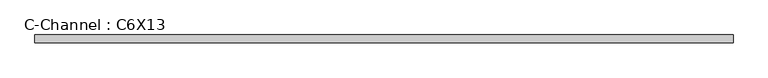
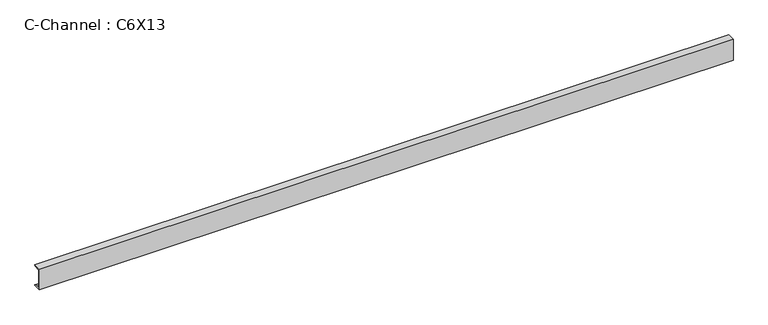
"""IFC4 building model written with IfcOpenShell, lengths in millimetres: beam geometry, C-Channel : C6X13."""

import ifcopenshell
import ifcopenshell.guid

model = None  # the IFC model being written
_history = None  # IfcOwnerHistory: only IFC2X3 demands one
_inside = {}  # id of a spatial element -> (the spatial element, [elements in it])
_under = {}  # id of a project, library or spatial element -> (it, [spatial elements below it])
_declared = {}  # id of a project -> (the project, [libraries it declares])
_typed = {}  # id of a type object -> (the type object, [elements of that type])
_made_of = {}  # id of a material, layer set ... -> (it, [elements and type objects made of it])


def new_model(schema):
    """Start an empty IFC model of exactly this schema.

    Asked for "IFC4X3", IfcOpenShell would pick the latest addendum, in which some entities
    have other attributes; the version numbers below select the first issue.
    IFC2X3 requires an IfcOwnerHistory on every rooted entity: one is made here for all.
    """
    global model, _history
    if schema == "IFC4X3":
        model = ifcopenshell.file(schema_version=(4, 3, 0, 0))
    else:
        model = ifcopenshell.file(schema=schema)
    _inside.clear()
    _under.clear()
    _declared.clear()
    _typed.clear()
    _made_of.clear()
    _history = None
    if model.schema == "IFC2X3":
        org = make("IfcOrganization", Name="unknown")
        user = make(
            "IfcPersonAndOrganization",
            ThePerson=make("IfcPerson", FamilyName="unknown"),
            TheOrganization=org,
        )
        app = make(
            "IfcApplication",
            ApplicationDeveloper=org,
            Version="unknown",
            ApplicationFullName="unknown",
            ApplicationIdentifier="unknown",
        )
        _history = make(
            "IfcOwnerHistory",
            OwningUser=user,
            OwningApplication=app,
            ChangeAction="ADDED",
            CreationDate=0,
        )
    return model


def make(cls, **values):
    """One entity of the class cls with the attributes given. An attribute that is None is left unset."""
    return model.create_entity(
        cls, **{name: value for name, value in values.items() if value is not None}
    )


def rooted(cls, **values):
    """An entity with a GlobalId (a new one), such as an element, a storey or a relation."""
    return make(cls, GlobalId=ifcopenshell.guid.new(), OwnerHistory=_history, **values)


def si_unit(unit_type, name, prefix=None):
    """IfcSIUnit, for example si_unit("LENGTHUNIT", "METRE", prefix="MILLI")."""
    return make("IfcSIUnit", UnitType=unit_type, Prefix=prefix, Name=name)


def assignment(units):
    """IfcUnitAssignment: the units of a project."""
    return None if units is None else make("IfcUnitAssignment", Units=units)


def point(xyz):
    """IfcCartesianPoint."""
    return None if xyz is None else make("IfcCartesianPoint", Coordinates=xyz)


def direction(xyz):
    """IfcDirection."""
    return None if xyz is None else make("IfcDirection", DirectionRatios=xyz)


def frame(location, z_axis=None, x_axis=None):
    """IfcAxis2Placement3D, a coordinate frame: its origin and axes. An axis left out is left unset."""
    return make(
        "IfcAxis2Placement3D",
        Location=point(location),
        Axis=direction(z_axis),
        RefDirection=direction(x_axis),
    )


def frame_2d(location, x_axis=None):
    """IfcAxis2Placement2D, a coordinate frame in the plane: its origin and x axis."""
    return make(
        "IfcAxis2Placement2D", Location=point(location), RefDirection=direction(x_axis)
    )


def origin():
    """The frame at (0, 0, 0) with its axes left unset."""
    return frame((0.0, 0.0, 0.0))


def place(relative_to, where):
    """IfcLocalPlacement: puts the frame where relative to a parent placement (None: the world)."""
    return make(
        "IfcLocalPlacement", PlacementRelTo=relative_to, RelativePlacement=where
    )


def context(
    kind, dimensions, precision=None, world=None, true_north=None, identifier=None
):
    """IfcGeometricRepresentationContext, for example the 3D "Model" context."""
    return make(
        "IfcGeometricRepresentationContext",
        ContextIdentifier=identifier,
        ContextType=kind,
        CoordinateSpaceDimension=dimensions,
        Precision=precision,
        WorldCoordinateSystem=world,
        TrueNorth=true_north,
    )


def project(units=None, contexts=None):
    """IfcProject with its units and contexts."""
    return rooted(
        "IfcProject",
        Name="project",
        RepresentationContexts=contexts,
        UnitsInContext=assignment(units),
    )


def spatial(cls, under=None, at=None, **own):
    """A site, building, storey or space (cls), placed at a placement, below another one or the project."""
    s = rooted(cls, ObjectPlacement=at, **own)
    if under is not None:
        _under.setdefault(under.id(), (under, []))[1].append(s)
    return s


def polyline(points):
    """IfcPolyline through the points."""
    return make("IfcPolyline", Points=[point(p) for p in points])


def circle_curve(where, radius):
    """IfcCircle in the frame where."""
    return make("IfcCircle", Position=where, Radius=radius)


def trimmed(basis, trim1, trim2, sense, master):
    """IfcTrimmedCurve: the piece of a basis curve between two trims."""
    return make(
        "IfcTrimmedCurve",
        BasisCurve=basis,
        Trim1=trim1,
        Trim2=trim2,
        SenseAgreement=sense,
        MasterRepresentation=master,
    )


def segment(curve, same_sense, transition):
    """IfcCompositeCurveSegment."""
    return make(
        "IfcCompositeCurveSegment",
        Transition=transition,
        SameSense=same_sense,
        ParentCurve=curve,
    )


def composite_curve(segments, self_intersect=None):
    """IfcCompositeCurve: segments joined end to end."""
    return make("IfcCompositeCurve", Segments=segments, SelfIntersect=self_intersect)


def outline(outer, holes=None, kind="AREA"):
    """IfcArbitraryClosedProfileDef: a profile drawn as a closed curve; with holes, ...WithVoids."""
    if holes is None:
        return make("IfcArbitraryClosedProfileDef", ProfileType=kind, OuterCurve=outer)
    return make(
        "IfcArbitraryProfileDefWithVoids",
        ProfileType=kind,
        OuterCurve=outer,
        InnerCurves=holes,
    )


def extrude(swept, where, along, depth):
    """IfcExtrudedAreaSolid: the profile swept, set in the frame where, extruded along a direction by depth."""
    return make(
        "IfcExtrudedAreaSolid",
        SweptArea=swept,
        Position=where,
        ExtrudedDirection=direction(along),
        Depth=depth,
    )


def shape(context_of_items, identifier, shape_type, items):
    """IfcShapeRepresentation: the items that make up one representation, for example the "Body"."""
    return make(
        "IfcShapeRepresentation",
        ContextOfItems=context_of_items,
        RepresentationIdentifier=identifier,
        RepresentationType=shape_type,
        Items=items,
    )


def source(mapping_origin, context_of_items, identifier, shape_type, items):
    """IfcRepresentationMap: a shape defined once, which mapped items show again and again."""
    return make(
        "IfcRepresentationMap",
        MappingOrigin=mapping_origin,
        MappedRepresentation=shape(context_of_items, identifier, shape_type, items),
    )


def transform(
    local_origin,
    x_axis=None,
    y_axis=None,
    z_axis=None,
    scale=None,
    scale2=None,
    scale3=None,
    uniform=True,
):
    """IfcCartesianTransformationOperator3D, or its non-uniform kind. x_axis, y_axis, z_axis: its Axis1, 2, 3."""
    if uniform:
        return make(
            "IfcCartesianTransformationOperator3D",
            Axis1=direction(x_axis),
            Axis2=direction(y_axis),
            LocalOrigin=point(local_origin),
            Scale=scale,
            Axis3=direction(z_axis),
        )
    return make(
        "IfcCartesianTransformationOperator3DnonUniform",
        Axis1=direction(x_axis),
        Axis2=direction(y_axis),
        LocalOrigin=point(local_origin),
        Scale=scale,
        Axis3=direction(z_axis),
        Scale2=scale2,
        Scale3=scale3,
    )


def mapped(mapping_source, mapping_target):
    """IfcMappedItem: shows the shape of a source again, moved by a transform."""
    return make(
        "IfcMappedItem", MappingSource=mapping_source, MappingTarget=mapping_target
    )


def made_of(thing, what):
    """Note that an element or type object is made of a material, layer set ...; save() writes the relation."""
    if what is not None:
        _made_of.setdefault(what.id(), (what, []))[1].append(thing)
    return thing


def element(
    cls,
    number,
    at=None,
    inside=None,
    cuts=None,
    type_object=None,
    material=None,
    context=None,
    identifier="Body",
    shape_type=None,
    held_by="IfcProductDefinitionShape",
    body=None,
    shapes=None,
    **own,
):
    """One element of the class cls, such as IfcWall. Its Tag is "e" and its number.

    at: its placement. inside: the storey or other place that contains it. cuts: it is an
    opening in that element (IfcRelVoidsElement). A single representation is given by context,
    identifier, shape_type and body (its items); several are given by shapes. held_by: the class
    of the entity that holds the representations. save() writes the other relations.
    """
    e = rooted(cls, Tag="e%d" % number, ObjectPlacement=at, **own)
    if body is not None:
        shapes = [shape(context, identifier, shape_type, body)]
    if shapes is not None:
        e.Representation = make(held_by, Representations=shapes)
    if inside is not None:
        _inside.setdefault(inside.id(), (inside, []))[1].append(e)
    if cuts is not None:
        rooted(
            "IfcRelVoidsElement", RelatingBuildingElement=cuts, RelatedOpeningElement=e
        )
    if type_object is not None:
        _typed.setdefault(type_object.id(), (type_object, []))[1].append(e)
    return made_of(e, material)


def aggregate(whole, parts):
    """IfcRelAggregates: a whole, such as a stair, and the parts it consists of."""
    return rooted("IfcRelAggregates", RelatingObject=whole, RelatedObjects=parts)


def save(model, path):
    """Write the relations noted so far, then the file.

    IfcRelAggregates (storeys below a building ...), IfcRelContainedInSpatialStructure (elements
    in a storey), IfcRelDefinesByType, IfcRelAssociatesMaterial and IfcRelDeclares: one each for
    every whole, place, type object, material and project.
    """
    for whole, parts in _under.values():
        aggregate(whole, parts)
    for where, things in _inside.values():
        rooted(
            "IfcRelContainedInSpatialStructure",
            RelatedElements=things,
            RelatingStructure=where,
        )
    for kind, things in _typed.values():
        rooted("IfcRelDefinesByType", RelatedObjects=things, RelatingType=kind)
    for what, things in _made_of.values():
        rooted("IfcRelAssociatesMaterial", RelatedObjects=things, RelatingMaterial=what)
    for by, libraries in _declared.values():
        rooted("IfcRelDeclares", RelatingContext=by, RelatedDefinitions=libraries)
    model.write(path)


def c_channel_c6x13_01a53013(model_context):
    return source(origin(), model_context, "Body", "SweptSolid", [
        extrude(outline(composite_curve([segment(polyline([(-13.0556, 76.2), (41.8084, 76.2)]), True, "CONTINUOUS"), segment(trimmed(circle_curve(frame_2d((33.0962, 76.2)), 8.7122), [point((41.8084, 76.2))], [point((33.0962, 67.4878))], False, "CARTESIAN"), True, "CONTINUOUS"), segment(polyline([(33.0962, 67.4878), (-1.9558, 61.9361086), (-1.9558, -61.9361086), (33.0962, -67.4878)]), True, "CONTINUOUS"), segment(trimmed(circle_curve(frame_2d((33.0962, -76.2)), 8.7122), [point((33.0962, -67.4878))], [point((41.8084, -76.2))], False, "CARTESIAN"), True, "CONTINUOUS"), segment(polyline([(41.8084, -76.2), (-13.0556, -76.2), (-13.0556, 76.2)]), True, "CONTINUOUS")], self_intersect=False)), frame((-2397.4982055, 0.0, 0.0), z_axis=(1.0, 0.0, 0.0), x_axis=(0.0, 1.0, 0.0)), (0.0, 0.0, 1.0), 4813.1688559),
    ])


if __name__ == "__main__":
    model = new_model("IFC4")
    model_context = context("Model", 3, world=origin())
    ifc_project = project(units=[si_unit("LENGTHUNIT", "METRE", prefix="MILLI")], contexts=[model_context])
    site = spatial("IfcSite", under=ifc_project)
    building = spatial("IfcBuilding", under=site)
    placement = place(None, origin())
    c_channel_c6x13_shape = c_channel_c6x13_01a53013(model_context)
    element("IfcBeam", 1, ObjectType="C-Channel : C6X13", at=placement, inside=building, context=model_context, shape_type="MappedRepresentation", body=[
        mapped(c_channel_c6x13_shape, transform((0.0, 0.0, 0.0), x_axis=(1.0, 0.0, 0.0), y_axis=(0.0, 1.0, 0.0), z_axis=(0.0, 0.0, 1.0))),
    ])
    save(model, "model.ifc")
